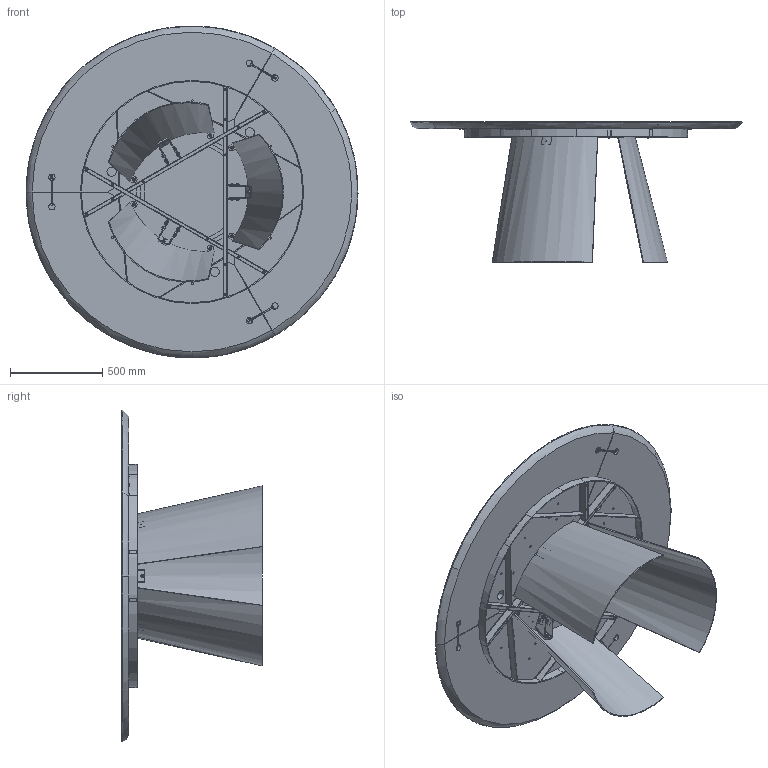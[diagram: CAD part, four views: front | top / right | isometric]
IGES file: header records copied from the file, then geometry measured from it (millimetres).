
Start section: SolidWorks IGES file using analytic representation for surfaces
Global section: file name: Y:\eforma\TECNICO\SOLIDWORKS\E-FORMA\1-TAVOLI\DORIAN\08 modelli 3D web\DN16L_Dorian_d.180_WoodCeramic.IGS; native system: SolidWorks 2022; preprocessor: SolidWorks 2022; author: eforma.tech; date: 240801.150655; units: millimetre
Bounding box: 1800.12 x 762.25 x 1799.88 mm (x, y, z)
Volume: 96419417.9 mm3; surface area: 12471437.5 mm2
Topology: 126 solids, 126 shells, 5062 faces, 14092 edges, 9167 vertices
Faces by surface type: revolution 3371, plane 1421, bspline 270
